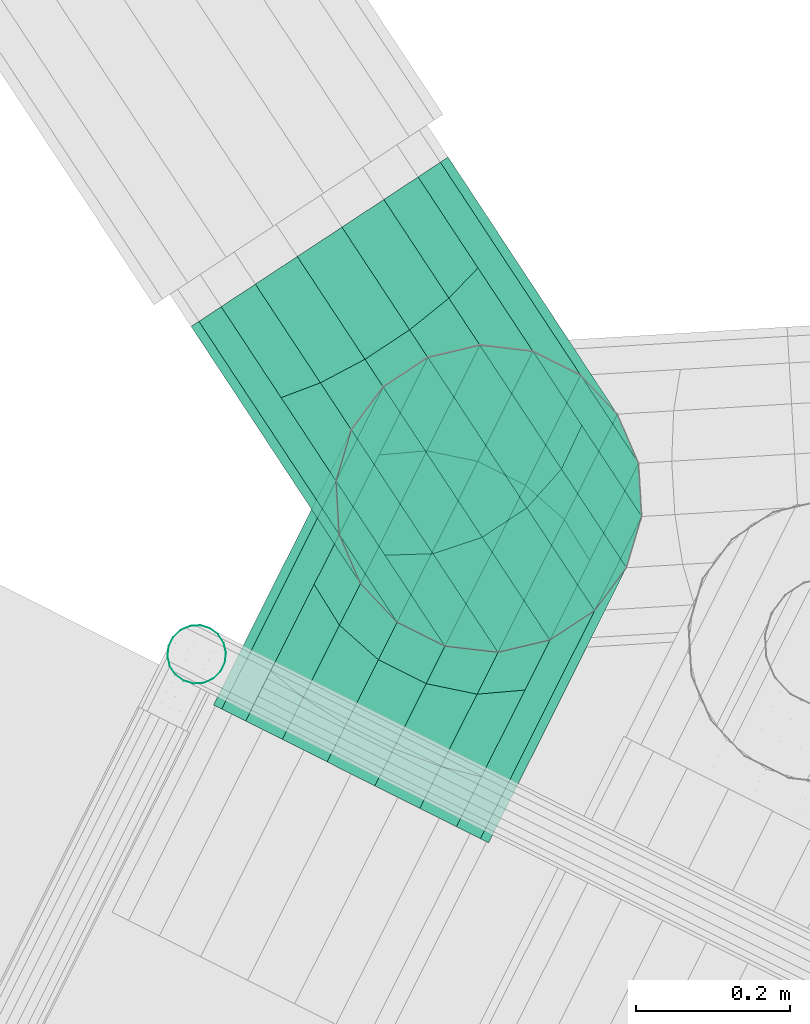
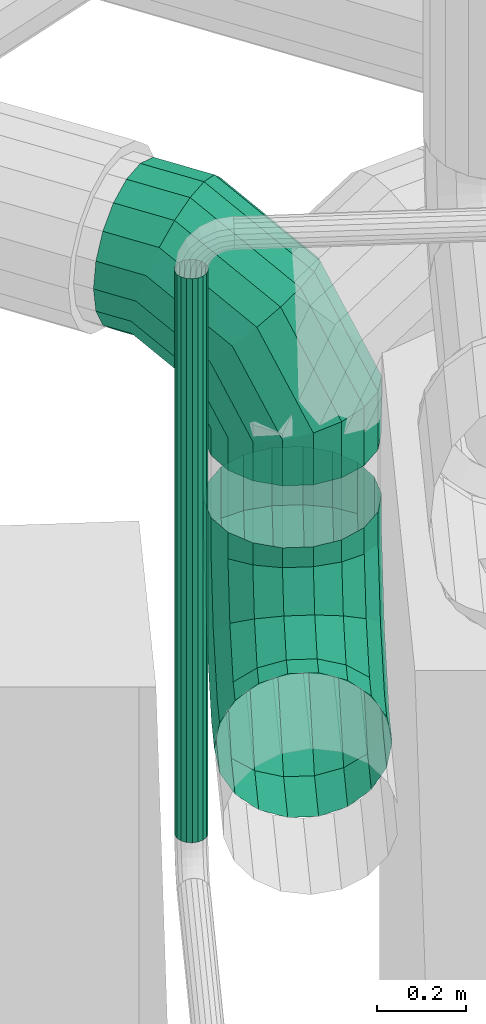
# One storey, part 11 of 206: 3 flow fittings, 1 flow segment.
"""IFC2X3 building model written with IfcOpenShell, lengths in metres."""

from ifc_helpers import new_model, si_unit, derived_unit, direction, frame, origin, place, context, subcontext, project, spatial, face_set, surface_model, source, transform, mapped, material, type_object, type_shapes, element, save


model = new_model("IFC2X3")

# Units and contexts
model_context = context("Model", 3, precision=5.2338327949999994e-05, world=origin(), true_north=direction((0.0, 1.0)))
body_context = subcontext(model_context, "Body", "Model", "MODEL_VIEW")
ifc_project = project(units=[si_unit("LENGTHUNIT", "METRE"), si_unit("AREAUNIT", "SQUARE_METRE"), si_unit("VOLUMEUNIT", "CUBIC_METRE"), si_unit("MASSUNIT", "GRAM", prefix="KILO"), si_unit("PLANEANGLEUNIT", "RADIAN"), derived_unit("THERMALTRANSMITTANCEUNIT", [(si_unit("MASSUNIT", "GRAM", prefix="KILO"), 1), (si_unit("THERMODYNAMICTEMPERATUREUNIT", "KELVIN"), -1), (si_unit("TIMEUNIT", "SECOND"), -3)])], contexts=[model_context])

# Site, building, storey
site_placement = place(None, frame((0.0, 0.0, 0.0), z_axis=(0.0, 0.0, 1.0), x_axis=(0.8939966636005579, -0.4480736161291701, 0.0)))
site = spatial("IfcSite", under=ifc_project, at=site_placement, Name="Default", CompositionType="ELEMENT")
building_placement = place(site_placement, origin())
building = spatial("IfcBuilding", under=site, at=building_placement, CompositionType="ELEMENT")
storey_placement = place(building_placement, origin())
storey = spatial("IfcBuildingStorey", under=building, at=storey_placement, Name="Erdgeschoss", CompositionType="ELEMENT", Elevation=0.0)

# Flow fittings
ifc_material_1 = material(Name="IfcSurfaceStyle #251447")
distribution_element_type_1 = type_object("IfcDistributionElementType", material=ifc_material_1)
shared_shape_1 = source(origin(), body_context, "Body", "SurfaceModel", [
    surface_model("IfcFaceBasedSurfaceModel", [(22.405508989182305, 8.028208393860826, 1.2300000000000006), (22.417570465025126, 8.028208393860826, 1.2984040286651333), (22.417570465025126, 8.11705926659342, 1.2984040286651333), (22.405508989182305, 8.135388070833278, 1.2300000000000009), (22.452300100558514, 8.028208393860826, 1.3585575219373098), (22.452300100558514, 8.10094118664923, 1.3585575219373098), (22.505508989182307, 8.028208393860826, 1.4032050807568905), (22.505508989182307, 8.088977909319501, 1.4032050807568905), (22.570779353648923, 8.028208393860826, 1.4269615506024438), (22.570779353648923, 8.082612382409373, 1.4269615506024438), (22.640238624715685, 8.028208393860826, 1.4269615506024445), (22.640238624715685, 8.082612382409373, 1.4269615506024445), (22.705508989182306, 8.028208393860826, 1.4032050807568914), (22.705508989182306, 8.088977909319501, 1.4032050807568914), (22.7587178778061, 8.028208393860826, 1.3585575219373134), (22.7587178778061, 8.10094118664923, 1.3585575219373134), (22.79344751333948, 8.028208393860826, 1.2984040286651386), (22.79344751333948, 8.117059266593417, 1.2984040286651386), (22.80550898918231, 8.028208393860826, 1.2300000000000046), (22.805508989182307, 8.135388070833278, 1.2299999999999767), (22.793447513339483, 8.028208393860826, 1.161595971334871), (22.793447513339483, 8.153716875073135, 1.161595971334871), (22.758717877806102, 8.028208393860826, 1.1014424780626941), (22.758717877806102, 8.169834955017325, 1.1014424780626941), (22.705508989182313, 8.028208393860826, 1.0567949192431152), (22.705508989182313, 8.181798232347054, 1.0567949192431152), (22.640238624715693, 8.028208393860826, 1.0330384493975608), (22.640238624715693, 8.188163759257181, 1.0330384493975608), (22.570779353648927, 8.028208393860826, 1.03303844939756), (22.570779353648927, 8.188163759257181, 1.03303844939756), (22.505508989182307, 8.028208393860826, 1.0567949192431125), (22.505508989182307, 8.181798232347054, 1.0567949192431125), (22.452300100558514, 8.028208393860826, 1.1014424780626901), (22.452300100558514, 8.169834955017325, 1.1014424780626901), (22.417570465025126, 8.028208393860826, 1.1615959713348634), (22.417570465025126, 8.153716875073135, 1.1615959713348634), (22.417570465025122, 8.270953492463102, 1.3872549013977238), (22.405508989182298, 8.321028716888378, 1.3371796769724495), (22.45230010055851, 8.22691807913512, 1.4312903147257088), (22.505508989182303, 8.194233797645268, 1.4639745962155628), (22.57077935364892, 8.176842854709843, 1.481365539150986), (22.64023862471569, 8.176842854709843, 1.481365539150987), (22.705508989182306, 8.194233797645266, 1.4639745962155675), (22.7587178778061, 8.22691807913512, 1.4312903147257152), (22.79344751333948, 8.2709534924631, 1.3872549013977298), (22.805508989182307, 8.321028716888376, 1.3371796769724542), (22.79344751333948, 8.371103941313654, 1.2871044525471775), (22.758717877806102, 8.415139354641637, 1.2430690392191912), (22.70550898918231, 8.447823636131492, 1.210384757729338), (22.64023862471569, 8.465214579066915, 1.192993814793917), (22.570779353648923, 8.465214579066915, 1.192993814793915), (22.505508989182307, 8.447823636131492, 1.2103847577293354), (22.452300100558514, 8.415139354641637, 1.2430690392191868), (22.417570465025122, 8.371103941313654, 1.2871044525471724), (22.417570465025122, 8.359804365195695, 1.5411491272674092), (22.405508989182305, 8.42820839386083, 1.5228203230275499), (22.452300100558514, 8.299650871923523, 1.5572672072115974), (22.505508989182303, 8.255003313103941, 1.5692304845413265), (22.57077935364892, 8.231246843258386, 1.5755960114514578), (22.640238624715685, 8.231246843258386, 1.5755960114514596), (22.7055089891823, 8.25500331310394, 1.56923048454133), (22.75871787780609, 8.29965087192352, 1.557267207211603), (22.79344751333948, 8.359804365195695, 1.5411491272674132), (22.8055089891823, 8.428208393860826, 1.5228203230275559), (22.79344751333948, 8.496612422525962, 1.5044915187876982), (22.758717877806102, 8.556765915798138, 1.4883734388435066), (22.7055089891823, 8.601413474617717, 1.4764101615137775), (22.64023862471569, 8.625169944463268, 1.4700446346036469), (22.57077935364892, 8.625169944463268, 1.4700446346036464), (22.505508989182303, 8.601413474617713, 1.4764101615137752), (22.452300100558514, 8.556765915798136, 1.4883734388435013), (22.417570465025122, 8.496612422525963, 1.5044915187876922), (22.417570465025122, 8.359804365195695, 1.6299999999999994), (22.405508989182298, 8.42820839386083, 1.6299999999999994), (22.45230010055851, 8.299650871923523, 1.6300000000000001), (22.5055089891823, 8.255003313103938, 1.6300000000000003), (22.570779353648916, 8.231246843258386, 1.6300000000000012), (22.640238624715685, 8.231246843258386, 1.630000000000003), (22.705508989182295, 8.25500331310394, 1.630000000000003), (22.75871787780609, 8.299650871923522, 1.6300000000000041), (22.793447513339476, 8.359804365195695, 1.6300000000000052), (22.805508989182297, 8.428208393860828, 1.6300000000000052), (22.79344751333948, 8.496612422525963, 1.6300000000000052), (22.75871787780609, 8.556765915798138, 1.6300000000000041), (22.705508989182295, 8.601413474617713, 1.630000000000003), (22.640238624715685, 8.625169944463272, 1.6300000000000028), (22.570779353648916, 8.62516994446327, 1.6300000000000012), (22.5055089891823, 8.601413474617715, 1.6300000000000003), (22.452300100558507, 8.556765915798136, 1.6300000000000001), (22.417570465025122, 8.496612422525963, 1.6299999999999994)], [face_set([[[0, 1, 2, 3]], [[1, 4, 5, 2]], [[4, 6, 7, 5]], [[6, 8, 9, 7]], [[8, 10, 11, 9]], [[10, 12, 13, 11]], [[12, 14, 15, 13]], [[14, 16, 17, 15]], [[16, 18, 19, 17]], [[18, 20, 21, 19]], [[20, 22, 23, 21]], [[22, 24, 25, 23]], [[24, 26, 27, 25]], [[26, 28, 29, 27]], [[28, 30, 31, 29]], [[30, 32, 33, 31]], [[32, 34, 35, 33]], [[34, 0, 3, 35]], [[3, 2, 36, 37]], [[2, 5, 38, 36]], [[5, 7, 39, 38]], [[7, 9, 40, 39]], [[9, 11, 41, 40]], [[11, 13, 42, 41]], [[13, 15, 43, 42]], [[15, 17, 44, 43]], [[17, 19, 45, 44]], [[19, 21, 46, 45]], [[21, 23, 47, 46]], [[23, 25, 48, 47]], [[25, 27, 49, 48]], [[27, 29, 50, 49]], [[29, 31, 51, 50]], [[31, 33, 52, 51]], [[33, 35, 53, 52]], [[35, 3, 37, 53]], [[37, 36, 54, 55]], [[36, 38, 56, 54]], [[38, 39, 57, 56]], [[39, 40, 58, 57]], [[40, 41, 59, 58]], [[41, 42, 60, 59]], [[42, 43, 61, 60]], [[43, 44, 62, 61]], [[44, 45, 63, 62]], [[45, 46, 64, 63]], [[46, 47, 65, 64]], [[47, 48, 66, 65]], [[48, 49, 67, 66]], [[49, 50, 68, 67]], [[50, 51, 69, 68]], [[51, 52, 70, 69]], [[52, 53, 71, 70]], [[53, 37, 55, 71]], [[55, 54, 72, 73]], [[54, 56, 74, 72]], [[56, 57, 75, 74]], [[57, 58, 76, 75]], [[58, 59, 77, 76]], [[59, 60, 78, 77]], [[60, 61, 79, 78]], [[61, 62, 80, 79]], [[62, 63, 81, 80]], [[63, 64, 82, 81]], [[64, 65, 83, 82]], [[65, 66, 84, 83]], [[66, 67, 85, 84]], [[67, 68, 86, 85]], [[68, 69, 87, 86]], [[69, 70, 88, 87]], [[70, 71, 89, 88]], [[71, 55, 73, 89]]])]),
])
type_shapes(distribution_element_type_1, [shared_shape_1])
flow_fitting_1_placement = place(storey_placement, origin())
element("IfcFlowFitting", 1, at=flow_fitting_1_placement, inside=storey, type_object=distribution_element_type_1, material=ifc_material_1, Name="Segmentbogen 4 teilig", ObjectType="Segmentbogen 4 teilig", context=body_context, shape_type="MappedRepresentation", body=[
    mapped(shared_shape_1, transform((0.0, 0.0, 0.0), scale=1.0)),
])
distribution_element_type_2 = type_object("IfcDistributionElementType", Name="Segmentbogen 4 teilig 279497:Segmentbogen 4 teilig 279497", material=ifc_material_1)
shared_shape_2 = source(origin(), body_context, "Body", "SurfaceModel", [
    surface_model("IfcFaceBasedSurfaceModel", [(22.70550898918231, 8.601413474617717, 1.7999999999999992), (22.640238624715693, 8.625169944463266, 1.7999999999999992), (22.640238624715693, 8.625169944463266, 1.888850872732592), (22.70550898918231, 8.601413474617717, 1.9071796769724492), (22.570779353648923, 8.62516994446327, 1.7999999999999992), (22.570779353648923, 8.62516994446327, 1.8727327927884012), (22.505508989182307, 8.601413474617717, 1.7999999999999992), (22.505508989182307, 8.601413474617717, 1.8607695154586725), (22.452300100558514, 8.556765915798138, 1.7999999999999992), (22.452300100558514, 8.556765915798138, 1.854403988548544), (22.417570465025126, 8.496612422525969, 1.7999999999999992), (22.417570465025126, 8.496612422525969, 1.854403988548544), (22.40550898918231, 8.42820839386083, 1.7999999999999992), (22.40550898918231, 8.42820839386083, 1.8607695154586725), (22.417570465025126, 8.3598043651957, 1.7999999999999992), (22.417570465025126, 8.3598043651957, 1.8727327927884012), (22.452300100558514, 8.299650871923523, 1.7999999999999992), (22.452300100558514, 8.299650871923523, 1.8888508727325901), (22.505508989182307, 8.255003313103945, 1.7999999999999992), (22.505508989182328, 8.25500331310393, 1.9071796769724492), (22.570779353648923, 8.231246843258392, 1.7999999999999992), (22.570779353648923, 8.231246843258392, 1.9255084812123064), (22.640238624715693, 8.231246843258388, 1.7999999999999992), (22.640238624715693, 8.231246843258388, 1.941626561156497), (22.70550898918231, 8.255003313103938, 1.7999999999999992), (22.70550898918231, 8.255003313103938, 1.9535898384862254), (22.758717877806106, 8.29965087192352, 1.7999999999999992), (22.758717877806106, 8.29965087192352, 1.959955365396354), (22.79344751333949, 8.359804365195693, 1.7999999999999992), (22.79344751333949, 8.359804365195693, 1.959955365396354), (22.805508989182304, 8.428208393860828, 1.7999999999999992), (22.805508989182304, 8.428208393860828, 1.9535898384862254), (22.79344751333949, 8.496612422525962, 1.7999999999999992), (22.79344751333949, 8.496612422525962, 1.941626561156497), (22.758717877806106, 8.556765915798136, 1.7999999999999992), (22.758717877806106, 8.556765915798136, 1.9255084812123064), (22.563291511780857, 8.669595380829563, 2.042745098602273), (22.61268866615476, 8.655003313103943, 2.092820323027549), (22.507790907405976, 8.661536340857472, 1.998709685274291), (22.452881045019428, 8.631798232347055, 1.9660254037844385), (22.405184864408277, 8.583967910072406, 1.9486344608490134), (22.370455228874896, 8.523814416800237, 1.9486344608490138), (22.352881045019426, 8.458593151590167, 1.9660254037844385), (22.35458201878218, 8.396170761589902, 1.998709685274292), (22.375352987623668, 8.344076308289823, 2.042745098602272), (22.412688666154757, 8.308593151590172, 2.0928203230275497), (22.462085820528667, 8.294001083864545, 2.1428955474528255), (22.517586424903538, 8.302060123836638, 2.18693096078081), (22.572496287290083, 8.33179823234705, 2.219615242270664), (22.620192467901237, 8.379628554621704, 2.237006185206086), (22.65492210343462, 8.439782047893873, 2.237006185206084), (22.67249628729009, 8.50500331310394, 2.219615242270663), (22.670795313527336, 8.56742570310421, 2.186930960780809), (22.650024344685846, 8.61952015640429, 2.1428955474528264), (22.430015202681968, 8.746542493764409, 2.131595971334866), (22.451919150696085, 8.747823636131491, 2.1999999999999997), (22.39869171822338, 8.724524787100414, 2.0714424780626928), (22.361726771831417, 8.684426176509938, 2.0267949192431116), (22.32357888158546, 8.631083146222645, 2.003038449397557), (22.28884924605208, 8.570929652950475, 2.0030384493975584), (22.261726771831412, 8.511221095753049, 2.0267949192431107), (22.24548282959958, 8.459159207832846, 2.0714424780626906), (22.24207667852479, 8.421023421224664, 2.131595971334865), (22.251919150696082, 8.401413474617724, 2.1999999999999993), (22.2738230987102, 8.402694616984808, 2.2684040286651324), (22.305146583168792, 8.424712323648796, 2.3285575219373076), (22.342111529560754, 8.464810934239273, 2.373205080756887), (22.38025941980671, 8.518153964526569, 2.3969615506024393), (22.41498905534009, 8.578307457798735, 2.3969615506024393), (22.442111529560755, 8.638016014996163, 2.373205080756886), (22.458355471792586, 8.690077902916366, 2.328557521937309), (22.46176162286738, 8.728213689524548, 2.2684040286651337), (22.35306808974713, 8.790967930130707, 2.1315959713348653), (22.35909882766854, 8.801413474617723, 2.1999999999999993), (22.33570327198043, 8.76089118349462, 2.0714424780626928), (22.30909882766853, 8.714810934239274, 2.0267949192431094), (22.27646364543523, 8.658285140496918, 2.0030384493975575), (22.241734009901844, 8.598131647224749, 2.0030384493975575), (22.209098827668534, 8.541605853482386, 2.02679491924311), (22.18249438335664, 8.495525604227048, 2.0714424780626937), (22.165129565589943, 8.465448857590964, 2.1315959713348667), (22.159098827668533, 8.455003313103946, 2.199999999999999), (22.165129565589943, 8.465448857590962, 2.2684040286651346), (22.18249438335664, 8.495525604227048, 2.3285575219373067), (22.209098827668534, 8.541605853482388, 2.3732050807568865), (22.241734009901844, 8.598131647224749, 2.3969615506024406), (22.27646364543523, 8.658285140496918, 2.3969615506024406), (22.30909882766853, 8.714810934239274, 2.373205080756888), (22.33570327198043, 8.760891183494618, 2.3285575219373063), (22.35306808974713, 8.790967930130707, 2.2684040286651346)], [face_set([[[0, 1, 2, 3]], [[1, 4, 5, 2]], [[4, 6, 7, 5]], [[6, 8, 9, 7]], [[8, 10, 11, 9]], [[10, 12, 13, 11]], [[12, 14, 15, 13]], [[14, 16, 17, 15]], [[16, 18, 19, 17]], [[18, 20, 21, 19]], [[20, 22, 23, 21]], [[22, 24, 25, 23]], [[24, 26, 27, 25]], [[26, 28, 29, 27]], [[28, 30, 31, 29]], [[30, 32, 33, 31]], [[32, 34, 35, 33]], [[34, 0, 3, 35]], [[3, 2, 36, 37]], [[2, 5, 38, 36]], [[5, 7, 39, 38]], [[7, 9, 40, 39]], [[9, 11, 41, 40]], [[11, 13, 42, 41]], [[13, 15, 43, 42]], [[15, 17, 44, 43]], [[17, 19, 45, 44]], [[19, 21, 46, 45]], [[21, 23, 47, 46]], [[23, 25, 48, 47]], [[25, 27, 49, 48]], [[27, 29, 50, 49]], [[29, 31, 51, 50]], [[31, 33, 52, 51]], [[33, 35, 53, 52]], [[35, 3, 37, 53]], [[37, 36, 54, 55]], [[36, 38, 56, 54]], [[38, 39, 57, 56]], [[39, 40, 58, 57]], [[40, 41, 59, 58]], [[41, 42, 60, 59]], [[42, 43, 61, 60]], [[43, 44, 62, 61]], [[44, 45, 63, 62]], [[45, 46, 64, 63]], [[46, 47, 65, 64]], [[47, 48, 66, 65]], [[48, 49, 67, 66]], [[49, 50, 68, 67]], [[50, 51, 69, 68]], [[51, 52, 70, 69]], [[52, 53, 71, 70]], [[53, 37, 55, 71]], [[55, 54, 72, 73]], [[54, 56, 74, 72]], [[56, 57, 75, 74]], [[57, 58, 76, 75]], [[58, 59, 77, 76]], [[59, 60, 78, 77]], [[60, 61, 79, 78]], [[61, 62, 80, 79]], [[62, 63, 81, 80]], [[63, 64, 82, 81]], [[64, 65, 83, 82]], [[65, 66, 84, 83]], [[66, 67, 85, 84]], [[67, 68, 86, 85]], [[68, 69, 87, 86]], [[69, 70, 88, 87]], [[70, 71, 89, 88]], [[71, 55, 73, 89]]])]),
])
type_shapes(distribution_element_type_2, [shared_shape_2])
flow_fitting_2_placement = place(storey_placement, origin())
element("IfcFlowFitting", 2, at=flow_fitting_2_placement, inside=storey, type_object=distribution_element_type_2, material=ifc_material_1, Name="Segmentbogen 4 teilig", ObjectType="Segmentbogen 4 teilig", context=body_context, shape_type="MappedRepresentation", body=[
    mapped(shared_shape_2, transform((0.0, 0.0, 0.0), scale=1.0)),
])
distribution_element_type_3 = type_object("IfcDistributionElementType", material=ifc_material_1)
shared_shape_3 = source(origin(), body_context, "Body", "SurfaceModel", [
    surface_model("IfcFaceBasedSurfaceModel", [(22.405508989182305, 8.028208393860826, 1.2300000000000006), (22.417570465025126, 8.028208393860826, 1.2984040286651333), (22.417570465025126, 8.11705926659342, 1.2984040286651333), (22.405508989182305, 8.135388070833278, 1.2300000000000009), (22.452300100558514, 8.028208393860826, 1.3585575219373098), (22.452300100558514, 8.10094118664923, 1.3585575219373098), (22.505508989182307, 8.028208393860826, 1.4032050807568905), (22.505508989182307, 8.088977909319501, 1.4032050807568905), (22.570779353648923, 8.028208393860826, 1.4269615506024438), (22.570779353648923, 8.082612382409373, 1.4269615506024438), (22.640238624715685, 8.028208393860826, 1.4269615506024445), (22.640238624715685, 8.082612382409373, 1.4269615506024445), (22.705508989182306, 8.028208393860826, 1.4032050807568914), (22.705508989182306, 8.088977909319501, 1.4032050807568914), (22.7587178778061, 8.028208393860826, 1.3585575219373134), (22.7587178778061, 8.10094118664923, 1.3585575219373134), (22.79344751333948, 8.028208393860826, 1.2984040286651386), (22.79344751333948, 8.117059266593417, 1.2984040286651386), (22.80550898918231, 8.028208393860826, 1.2300000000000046), (22.805508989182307, 8.135388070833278, 1.2299999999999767), (22.793447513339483, 8.028208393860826, 1.161595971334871), (22.793447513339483, 8.153716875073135, 1.161595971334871), (22.758717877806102, 8.028208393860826, 1.1014424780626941), (22.758717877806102, 8.169834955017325, 1.1014424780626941), (22.705508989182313, 8.028208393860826, 1.0567949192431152), (22.705508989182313, 8.181798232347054, 1.0567949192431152), (22.640238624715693, 8.028208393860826, 1.0330384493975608), (22.640238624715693, 8.188163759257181, 1.0330384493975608), (22.570779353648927, 8.028208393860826, 1.03303844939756), (22.570779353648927, 8.188163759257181, 1.03303844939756), (22.505508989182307, 8.028208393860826, 1.0567949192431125), (22.505508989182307, 8.181798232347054, 1.0567949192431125), (22.452300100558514, 8.028208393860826, 1.1014424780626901), (22.452300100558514, 8.169834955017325, 1.1014424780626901), (22.417570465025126, 8.028208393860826, 1.1615959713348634), (22.417570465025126, 8.153716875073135, 1.1615959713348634), (22.417570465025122, 8.270953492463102, 1.3872549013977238), (22.405508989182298, 8.321028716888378, 1.3371796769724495), (22.45230010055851, 8.22691807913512, 1.4312903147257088), (22.505508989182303, 8.194233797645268, 1.4639745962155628), (22.57077935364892, 8.176842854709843, 1.481365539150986), (22.64023862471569, 8.176842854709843, 1.481365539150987), (22.705508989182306, 8.194233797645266, 1.4639745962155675), (22.7587178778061, 8.22691807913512, 1.4312903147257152), (22.79344751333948, 8.2709534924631, 1.3872549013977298), (22.805508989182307, 8.321028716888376, 1.3371796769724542), (22.79344751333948, 8.371103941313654, 1.2871044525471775), (22.758717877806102, 8.415139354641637, 1.2430690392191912), (22.70550898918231, 8.447823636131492, 1.210384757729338), (22.64023862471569, 8.465214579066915, 1.192993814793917), (22.570779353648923, 8.465214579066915, 1.192993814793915), (22.505508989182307, 8.447823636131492, 1.2103847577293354), (22.452300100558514, 8.415139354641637, 1.2430690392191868), (22.417570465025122, 8.371103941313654, 1.2871044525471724), (22.417570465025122, 8.359804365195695, 1.5411491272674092), (22.405508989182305, 8.42820839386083, 1.5228203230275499), (22.452300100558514, 8.299650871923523, 1.5572672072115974), (22.505508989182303, 8.255003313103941, 1.5692304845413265), (22.57077935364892, 8.231246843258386, 1.5755960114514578), (22.640238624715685, 8.231246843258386, 1.5755960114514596), (22.7055089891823, 8.25500331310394, 1.56923048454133), (22.75871787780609, 8.29965087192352, 1.557267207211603), (22.79344751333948, 8.359804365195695, 1.5411491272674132), (22.8055089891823, 8.428208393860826, 1.5228203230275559), (22.79344751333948, 8.496612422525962, 1.5044915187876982), (22.758717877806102, 8.556765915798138, 1.4883734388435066), (22.7055089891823, 8.601413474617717, 1.4764101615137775), (22.64023862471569, 8.625169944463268, 1.4700446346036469), (22.57077935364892, 8.625169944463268, 1.4700446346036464), (22.505508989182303, 8.601413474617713, 1.4764101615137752), (22.452300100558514, 8.556765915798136, 1.4883734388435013), (22.417570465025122, 8.496612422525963, 1.5044915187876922), (22.417570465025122, 8.359804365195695, 1.6299999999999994), (22.405508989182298, 8.42820839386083, 1.6299999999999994), (22.45230010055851, 8.299650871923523, 1.6300000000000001), (22.5055089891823, 8.255003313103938, 1.6300000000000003), (22.570779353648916, 8.231246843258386, 1.6300000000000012), (22.640238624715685, 8.231246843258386, 1.630000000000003), (22.705508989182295, 8.25500331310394, 1.630000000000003), (22.75871787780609, 8.299650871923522, 1.6300000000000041), (22.793447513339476, 8.359804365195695, 1.6300000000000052), (22.805508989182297, 8.428208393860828, 1.6300000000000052), (22.79344751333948, 8.496612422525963, 1.6300000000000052), (22.75871787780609, 8.556765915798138, 1.6300000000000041), (22.705508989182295, 8.601413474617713, 1.630000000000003), (22.640238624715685, 8.625169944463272, 1.6300000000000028), (22.570779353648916, 8.62516994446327, 1.6300000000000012), (22.5055089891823, 8.601413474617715, 1.6300000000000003), (22.452300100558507, 8.556765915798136, 1.6300000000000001), (22.417570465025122, 8.496612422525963, 1.6299999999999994)], [face_set([[[0, 1, 2, 3]], [[1, 4, 5, 2]], [[4, 6, 7, 5]], [[6, 8, 9, 7]], [[8, 10, 11, 9]], [[10, 12, 13, 11]], [[12, 14, 15, 13]], [[14, 16, 17, 15]], [[16, 18, 19, 17]], [[18, 20, 21, 19]], [[20, 22, 23, 21]], [[22, 24, 25, 23]], [[24, 26, 27, 25]], [[26, 28, 29, 27]], [[28, 30, 31, 29]], [[30, 32, 33, 31]], [[32, 34, 35, 33]], [[34, 0, 3, 35]], [[3, 2, 36, 37]], [[2, 5, 38, 36]], [[5, 7, 39, 38]], [[7, 9, 40, 39]], [[9, 11, 41, 40]], [[11, 13, 42, 41]], [[13, 15, 43, 42]], [[15, 17, 44, 43]], [[17, 19, 45, 44]], [[19, 21, 46, 45]], [[21, 23, 47, 46]], [[23, 25, 48, 47]], [[25, 27, 49, 48]], [[27, 29, 50, 49]], [[29, 31, 51, 50]], [[31, 33, 52, 51]], [[33, 35, 53, 52]], [[35, 3, 37, 53]], [[37, 36, 54, 55]], [[36, 38, 56, 54]], [[38, 39, 57, 56]], [[39, 40, 58, 57]], [[40, 41, 59, 58]], [[41, 42, 60, 59]], [[42, 43, 61, 60]], [[43, 44, 62, 61]], [[44, 45, 63, 62]], [[45, 46, 64, 63]], [[46, 47, 65, 64]], [[47, 48, 66, 65]], [[48, 49, 67, 66]], [[49, 50, 68, 67]], [[50, 51, 69, 68]], [[51, 52, 70, 69]], [[52, 53, 71, 70]], [[53, 37, 55, 71]], [[55, 54, 72, 73]], [[54, 56, 74, 72]], [[56, 57, 75, 74]], [[57, 58, 76, 75]], [[58, 59, 77, 76]], [[59, 60, 78, 77]], [[60, 61, 79, 78]], [[61, 62, 80, 79]], [[62, 63, 81, 80]], [[63, 64, 82, 81]], [[64, 65, 83, 82]], [[65, 66, 84, 83]], [[66, 67, 85, 84]], [[67, 68, 86, 85]], [[68, 69, 87, 86]], [[69, 70, 88, 87]], [[70, 71, 89, 88]], [[71, 55, 73, 89]]])]),
])
type_shapes(distribution_element_type_3, [shared_shape_3])
flow_fitting_3_placement = place(storey_placement, origin())
element("IfcFlowFitting", 3, at=flow_fitting_3_placement, inside=storey, type_object=distribution_element_type_3, material=ifc_material_1, Name="Segmentbogen 4 teilig", ObjectType="Segmentbogen 4 teilig", context=body_context, shape_type="MappedRepresentation", body=[
    mapped(shared_shape_3, transform((0.0, 0.0, 0.0), scale=1.0)),
])

# Flow segment
ifc_material_2 = material(Name="IfcSurfaceStyle #352577")
distribution_element_type_4 = type_object("IfcDistributionElementType", Name="Stahlrohr nach DIN 2448 359337:Stahlrohr nach DIN 2448 359337", material=ifc_material_2)
shared_shape_4 = source(origin(), body_context, "Body", "SurfaceModel", [
    surface_model("IfcFaceBasedSurfaceModel", [(22.35676673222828, 8.115212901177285, 2.5101641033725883), (22.36978059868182, 8.112918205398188, 2.5101641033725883), (22.369780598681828, 8.112918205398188, 0.9649999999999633), (22.356766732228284, 8.115212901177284, 0.9649999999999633), (22.381224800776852, 8.10631089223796, 2.5101641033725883), (22.38122480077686, 8.106310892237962, 0.9649999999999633), (22.38971899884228, 8.096187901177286, 2.5101641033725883), (22.389718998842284, 8.096187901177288, 0.9649999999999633), (22.39423866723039, 8.083770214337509, 2.5101641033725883), (22.394238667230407, 8.083770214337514, 0.9649999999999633), (22.394238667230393, 8.070555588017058, 2.5101641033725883), (22.394238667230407, 8.070555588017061, 0.9649999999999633), (22.389718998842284, 8.058137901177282, 2.5101641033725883), (22.38971899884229, 8.058137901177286, 0.9649999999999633), (22.381224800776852, 8.048014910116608, 2.5101641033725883), (22.381224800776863, 8.048014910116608, 0.9649999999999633), (22.369780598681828, 8.041407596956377, 2.5101641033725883), (22.369780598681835, 8.041407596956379, 0.9649999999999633), (22.356766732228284, 8.039112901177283, 2.5101641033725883), (22.356766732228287, 8.039112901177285, 0.9649999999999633), (22.343752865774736, 8.041407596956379, 2.5101641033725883), (22.34375286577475, 8.041407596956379, 0.9649999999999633), (22.33230866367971, 8.048014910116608, 2.5101641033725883), (22.332308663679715, 8.048014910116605, 0.9649999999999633), (22.323814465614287, 8.058137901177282, 2.5101641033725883), (22.32381446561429, 8.058137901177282, 0.9649999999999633), (22.31929479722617, 8.070555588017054, 2.5101641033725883), (22.31929479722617, 8.07055558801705, 0.9649999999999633), (22.31929479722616, 8.083770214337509, 2.5101641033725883), (22.319294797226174, 8.083770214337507, 0.9649999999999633), (22.323814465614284, 8.096187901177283, 2.5101641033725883), (22.32381446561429, 8.096187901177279, 0.9649999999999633), (22.33230866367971, 8.106310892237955, 2.5101641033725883), (22.332308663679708, 8.106310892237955, 0.9649999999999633), (22.343752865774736, 8.11291820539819, 2.5101641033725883), (22.34375286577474, 8.112918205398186, 0.9649999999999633)], [face_set([[[0, 1, 2, 3]], [[1, 4, 5, 2]], [[4, 6, 7, 5]], [[6, 8, 9, 7]], [[8, 10, 11, 9]], [[10, 12, 13, 11]], [[12, 14, 15, 13]], [[14, 16, 17, 15]], [[16, 18, 19, 17]], [[18, 20, 21, 19]], [[20, 22, 23, 21]], [[22, 24, 25, 23]], [[24, 26, 27, 25]], [[26, 28, 29, 27]], [[28, 30, 31, 29]], [[30, 32, 33, 31]], [[32, 34, 35, 33]], [[34, 0, 3, 35]]])]),
])
type_shapes(distribution_element_type_4, [shared_shape_4])
flow_segment_placement = place(storey_placement, origin())
element("IfcFlowSegment", 4, at=flow_segment_placement, inside=storey, type_object=distribution_element_type_4, material=ifc_material_2, Name="Stahlrohr nach DIN 2448", ObjectType="Stahlrohr nach DIN 2448", context=body_context, shape_type="MappedRepresentation", body=[
    mapped(shared_shape_4, transform((0.0, 0.0, 0.0), scale=1.0)),
])

save(model, "model.ifc")
